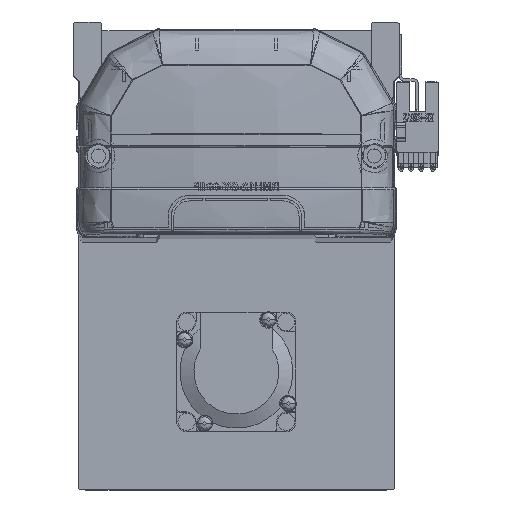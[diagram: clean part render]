
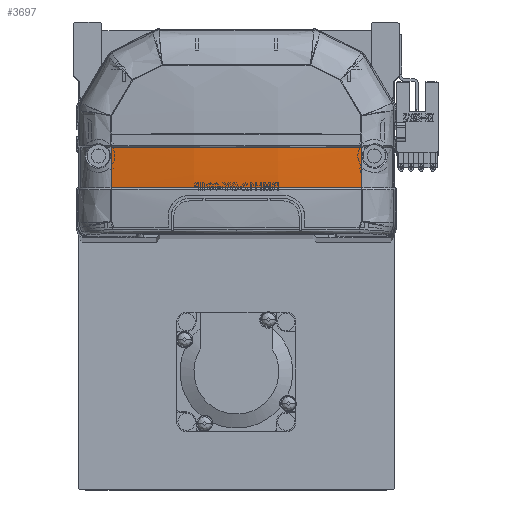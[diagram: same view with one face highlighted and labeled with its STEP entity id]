
A CAD part, top view. The second image highlights one B-rep face of the part: STEP entity #3697.
In plain terms, the highlighted free-form (B-spline) face has degree [3, 3] with [4, 4] control points.
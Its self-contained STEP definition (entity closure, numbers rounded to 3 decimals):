
#302 = CARTESIAN_POINT ( 'NONE',  ( -13.598, 15.499, -10.032 ) ) ;
#597 = CARTESIAN_POINT ( 'NONE',  ( 39.966, 24.413, -6.306 ) ) ;
#624 = EDGE_CURVE ( 'NONE', #34493, #35987, #13403, .T. ) ;
#696 = CARTESIAN_POINT ( 'NONE',  ( -13.598, 19.918, -10.302 ) ) ;
#840 = CARTESIAN_POINT ( 'NONE',  ( 39.985, 15.83, -5.879 ) ) ;
#3697 = ADVANCED_FACE ( 'NONE', ( #29656 ), #27531, .F. ) ;
#5036 = CARTESIAN_POINT ( 'NONE',  ( -13.384, 15.83, -8.724 ) ) ;
#5252 = CARTESIAN_POINT ( 'NONE',  ( -40.461, 15.757, -5.8 ) ) ;
#9862 = CARTESIAN_POINT ( 'NONE',  ( 39.963, 28.706, -6.372 ) ) ;
#10538 = ORIENTED_EDGE ( 'NONE', *, *, #624, .T. ) ;
#10752 = CARTESIAN_POINT ( 'NONE',  ( -39.966, 24.412, -6.306 ) ) ;
#13039 = B_SPLINE_CURVE_WITH_KNOTS ( 'NONE', 3,
 ( #840, #18504, #27626, #36921, #5036, #45762, #14338, #50490, #18706, #41230 ),
 .UNSPECIFIED., .F., .F.,
 ( 4, 2, 2, 2, 4 ),
 ( 0., 0.04, 0.06, 0.07, 0.08 ),
 .UNSPECIFIED. ) ;
#13403 = B_SPLINE_CURVE_WITH_KNOTS ( 'NONE', 3,
 ( #56349, #10752, #42374, #14296 ),
 .UNSPECIFIED., .F., .F.,
 ( 4, 4 ),
 ( 0., 1. ),
 .UNSPECIFIED. ) ;
#14085 = CARTESIAN_POINT ( 'NONE',  ( 39.973, 20.12, -6.142 ) ) ;
#14296 = CARTESIAN_POINT ( 'NONE',  ( -39.985, 15.83, -5.879 ) ) ;
#14338 = CARTESIAN_POINT ( 'NONE',  ( -26.721, 15.83, -7.624 ) ) ;
#14472 = CARTESIAN_POINT ( 'NONE',  ( 39.963, 28.706, -6.372 ) ) ;
#15168 = ORIENTED_EDGE ( 'NONE', *, *, #22458, .T. ) ;
#16265 = CARTESIAN_POINT ( 'NONE',  ( 39.985, 15.83, -5.879 ) ) ;
#16489 = VERTEX_POINT ( 'NONE', #36363 ) ;
#18387 = ORIENTED_EDGE ( 'NONE', *, *, #27663, .F. ) ;
#18504 = CARTESIAN_POINT ( 'NONE',  ( 26.761, 15.83, -7.945 ) ) ;
#18706 = CARTESIAN_POINT ( 'NONE',  ( -36.679, 15.83, -6.395 ) ) ;
#18943 = CARTESIAN_POINT ( 'NONE',  ( -40.461, 20.111, -6.066 ) ) ;
#19075 = B_SPLINE_CURVE_WITH_KNOTS ( 'NONE', 3,
 ( #23036, #14085, #597, #14472 ),
 .UNSPECIFIED., .F., .F.,
 ( 4, 4 ),
 ( 0., 1. ),
 .UNSPECIFIED. ) ;
#19128 = CARTESIAN_POINT ( 'NONE',  ( -40.461, 24.47, -6.231 ) ) ;
#22458 = EDGE_CURVE ( 'NONE', #26014, #16489, #19075, .T. ) ;
#22581 = CARTESIAN_POINT ( 'NONE',  ( -13.373, 28.707, -9.468 ) ) ;
#23036 = CARTESIAN_POINT ( 'NONE',  ( 39.985, 15.83, -5.879 ) ) ;
#23180 = CARTESIAN_POINT ( 'NONE',  ( -39.963, 28.706, -6.372 ) ) ;
#25269 = B_SPLINE_CURVE_WITH_KNOTS ( 'NONE', 3,
 ( #23180, #36206, #22581, #32444, #40725, #9862 ),
 .UNSPECIFIED., .F., .F.,
 ( 4, 2, 4 ),
 ( 0., 0.5, 1. ),
 .UNSPECIFIED. ) ;
#25779 = CARTESIAN_POINT ( 'NONE',  ( 13.598, 19.918, -10.302 ) ) ;
#26014 = VERTEX_POINT ( 'NONE', #16265 ) ;
#27531 =( BOUNDED_SURFACE ( )  B_SPLINE_SURFACE ( 3, 3, ( 
 ( #34695, #48259, #39416, #43920 ),
 ( #52813, #25779, #32416, #49947 ),
 ( #302, #696, #36773, #45604 ),
 ( #5252, #18943, #19128, #46194 ) ),
 .UNSPECIFIED., .F., .F., .F. ) 
 B_SPLINE_SURFACE_WITH_KNOTS ( ( 4, 4 ),
 ( 4, 4 ),
 ( 0., 1. ),
 ( 0., 1. ),
 .UNSPECIFIED. ) 
 GEOMETRIC_REPRESENTATION_ITEM ( )  RATIONAL_B_SPLINE_SURFACE ( (
 ( 1., 1., 1., 1.),
 ( 0.992, 0.992, 0.992, 0.992),
 ( 0.992, 0.992, 0.992, 0.992),
 ( 1., 1., 1., 1.) ) ) 
 REPRESENTATION_ITEM ( '' )  SURFACE ( )  );
#27626 = CARTESIAN_POINT ( 'NONE',  ( 13.38, 15.83, -8.984 ) ) ;
#27663 = EDGE_CURVE ( 'NONE', #34493, #16489, #25269, .T. ) ;
#29656 = FACE_OUTER_BOUND ( 'NONE', #54550, .T. ) ;
#32416 = CARTESIAN_POINT ( 'NONE',  ( 13.598, 24.342, -10.47 ) ) ;
#32444 = CARTESIAN_POINT ( 'NONE',  ( 13.375, 28.707, -9.468 ) ) ;
#34493 = VERTEX_POINT ( 'NONE', #35205 ) ;
#34695 = CARTESIAN_POINT ( 'NONE',  ( 40.461, 15.757, -5.8 ) ) ;
#35205 = CARTESIAN_POINT ( 'NONE',  ( -39.963, 28.706, -6.372 ) ) ;
#35987 = VERTEX_POINT ( 'NONE', #44620 ) ;
#36206 = CARTESIAN_POINT ( 'NONE',  ( -26.748, 28.706, -8.432 ) ) ;
#36363 = CARTESIAN_POINT ( 'NONE',  ( 39.963, 28.706, -6.372 ) ) ;
#36773 = CARTESIAN_POINT ( 'NONE',  ( -13.598, 24.342, -10.47 ) ) ;
#36921 = CARTESIAN_POINT ( 'NONE',  ( -6.692, 15.83, -8.984 ) ) ;
#39416 = CARTESIAN_POINT ( 'NONE',  ( 40.461, 24.47, -6.231 ) ) ;
#40725 = CARTESIAN_POINT ( 'NONE',  ( 26.749, 28.706, -8.432 ) ) ;
#41230 = CARTESIAN_POINT ( 'NONE',  ( -39.985, 15.83, -5.879 ) ) ;
#42374 = CARTESIAN_POINT ( 'NONE',  ( -39.973, 20.118, -6.142 ) ) ;
#43920 = CARTESIAN_POINT ( 'NONE',  ( 40.461, 28.832, -6.296 ) ) ;
#44620 = CARTESIAN_POINT ( 'NONE',  ( -39.985, 15.83, -5.879 ) ) ;
#45604 = CARTESIAN_POINT ( 'NONE',  ( -13.598, 28.769, -10.535 ) ) ;
#45762 = CARTESIAN_POINT ( 'NONE',  ( -23.389, 15.83, -7.947 ) ) ;
#46194 = CARTESIAN_POINT ( 'NONE',  ( -40.461, 28.832, -6.296 ) ) ;
#48259 = CARTESIAN_POINT ( 'NONE',  ( 40.461, 20.111, -6.066 ) ) ;
#49947 = CARTESIAN_POINT ( 'NONE',  ( 13.598, 28.769, -10.535 ) ) ;
#50490 = CARTESIAN_POINT ( 'NONE',  ( -33.365, 15.83, -6.848 ) ) ;
#52813 = CARTESIAN_POINT ( 'NONE',  ( 13.598, 15.499, -10.032 ) ) ;
#54550 = EDGE_LOOP ( 'NONE', ( #15168, #18387, #10538, #56473 ) ) ;
#56349 = CARTESIAN_POINT ( 'NONE',  ( -39.963, 28.706, -6.372 ) ) ;
#56473 = ORIENTED_EDGE ( 'NONE', *, *, #57983, .F. ) ;
#57983 = EDGE_CURVE ( 'NONE', #26014, #35987, #13039, .T. ) ;
